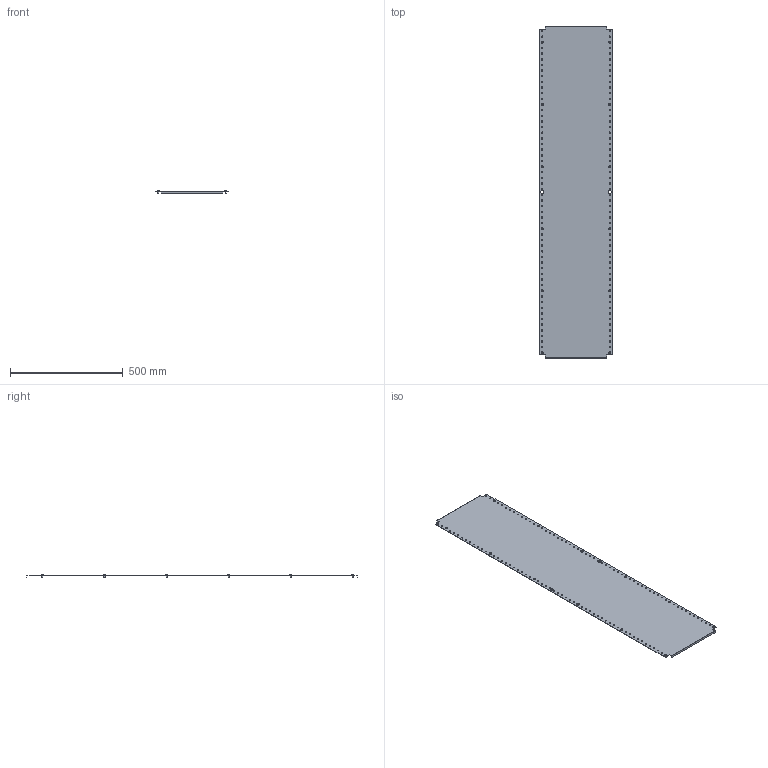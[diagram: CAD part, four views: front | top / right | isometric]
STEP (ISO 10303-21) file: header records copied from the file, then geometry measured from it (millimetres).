
FILE_DESCRIPTION (( 'STEP AP203' ), '1' );
FILE_NAME ('R6MP1640.STEP', '2025-03-28T12:08:50', ( '' ), ( '' ), 'SwSTEP 2.0', 'SolidWorks 2022', '' );
FILE_SCHEMA (( 'CONFIG_CONTROL_DESIGN' ));
Length unit declared in the file: millimetre
Products named in the file (3): RB.3293.00.00.0_-15; R6MP1640; M5x12 DIN 7500 C Torx Zinc_stright
Assembly tree (13 placements, depth 2):
  R6MP1640
    RB.3293.00.00.0_-15
    M5x12 DIN 7500 C Torx Zinc_stright  x12
Bounding box: 325 x 1470 x 15.56 mm (x, y, z)
Volume: 862700.6 mm3; surface area: 968938 mm2
Topology: 13 solids, 13 shells, 342 faces, 804 edges, 500 vertices
Faces by surface type: cylinder 144, plane 126, torus 24, cone 24, sphere 12, bspline 12
Full cylindrical faces by diameter (mm): 5 x12, 6.5 x116, 9.5 x12
Entity records: 6213 total; most frequent: CARTESIAN_POINT 1044, DIRECTION 956, ORIENTED_EDGE 696, EDGE_LOOP 526, AXIS2_PLACEMENT_3D 434, EDGE_CURVE 348, VERTEX_POINT 310, FACE_OUTER_BOUND 288
